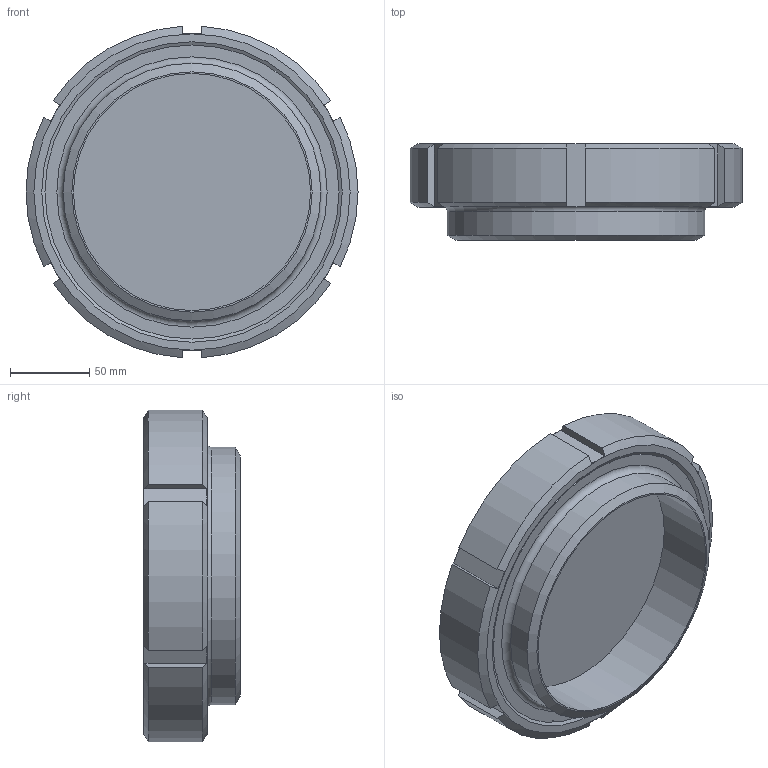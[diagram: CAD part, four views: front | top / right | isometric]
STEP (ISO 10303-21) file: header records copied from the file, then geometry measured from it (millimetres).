
FILE_DESCRIPTION(/* description */ ('Unknown'),/* implementation_level */ '2;1');
FILE_NAME(/* name */ '1',/* time_stamp */ '2016-01-18T15:19:44+01:00',/* author */ ('Unknown'),/* organization */ ('Unknown'),/* preprocessor_version */ 'ST-DEVELOPER v16.7',/* originating_system */ 'DEX',/* authorisation */ $);
FILE_SCHEMA (('CONFIG_CONTROL_DESIGN'));
Length unit declared in the file: millimetre
Products named in the file (6): 0207.006.38_01; 4019.023.38_01; 0863.231.38_01; 1775.184.38_01; 5684.028.38_01; 8412.021.38_01
Assembly tree (5 placements, depth 2):
  0207.006.38_01
    4019.023.38_01
    0863.231.38_01
    1775.184.38_01
    5684.028.38_01
    8412.021.38_01
Bounding box: 210 x 61 x 209.66 mm (x, y, z)
Volume: 975087.1 mm3; surface area: 238763.4 mm2
Topology: 5 solids, 5 shells, 73 faces, 154 edges, 95 vertices
Faces by surface type: plane 32, cone 20, cylinder 19, torus 2
Full cylindrical faces by diameter (mm): 150 x3, 154 x1, 155 x1, 163 x1, 166 x1, 167 x2, 184 x2, 190 x2
Entity records: 2156 total; most frequent: CARTESIAN_POINT 557, DIRECTION 300, ORIENTED_EDGE 262, AXIS2_PLACEMENT_3D 138, EDGE_CURVE 131, EDGE_LOOP 108, FACE_BOUND 108, VERTEX_POINT 95
